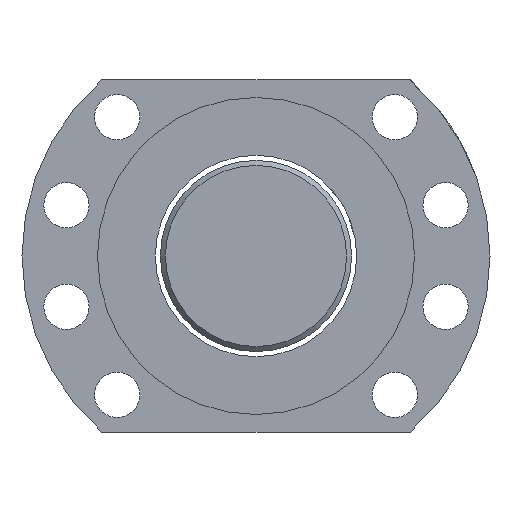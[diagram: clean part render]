
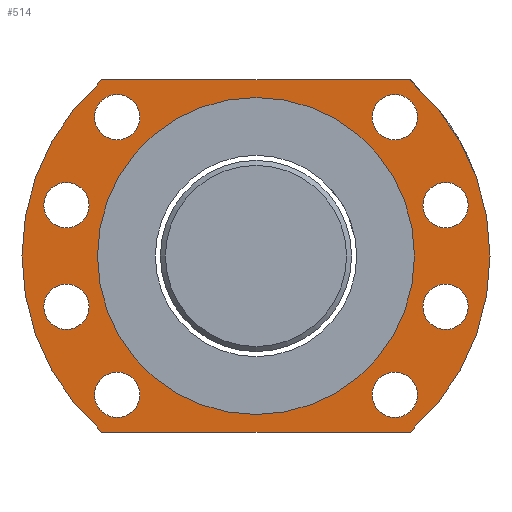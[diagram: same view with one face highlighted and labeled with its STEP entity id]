
A CAD part, left-side view. The second image highlights one B-rep face of the part: STEP entity #514.
In plain terms, the highlighted planar face has unit normal (-1, 0, 0).
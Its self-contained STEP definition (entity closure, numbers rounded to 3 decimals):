
#61=LINE('',#864,#69);
#64=LINE('',#870,#72);
#69=VECTOR('',#706,1000.);
#72=VECTOR('',#711,1000.);
#83=PLANE('',#605);
#161=ORIENTED_EDGE('',*,*,#229,.T.);
#162=ORIENTED_EDGE('',*,*,#231,.F.);
#163=ORIENTED_EDGE('',*,*,#235,.T.);
#164=ORIENTED_EDGE('',*,*,#253,.F.);
#165=ORIENTED_EDGE('',*,*,#250,.T.);
#166=ORIENTED_EDGE('',*,*,#247,.T.);
#167=ORIENTED_EDGE('',*,*,#217,.T.);
#168=ORIENTED_EDGE('',*,*,#244,.T.);
#169=ORIENTED_EDGE('',*,*,#243,.F.);
#170=ORIENTED_EDGE('',*,*,#241,.F.);
#171=ORIENTED_EDGE('',*,*,#239,.F.);
#172=ORIENTED_EDGE('',*,*,#237,.T.);
#173=ORIENTED_EDGE('',*,*,#233,.T.);
#217=EDGE_CURVE('',#271,#272,#316,.T.);
#229=EDGE_CURVE('',#283,#283,#322,.T.);
#231=EDGE_CURVE('',#285,#285,#324,.T.);
#233=EDGE_CURVE('',#287,#287,#326,.T.);
#235=EDGE_CURVE('',#289,#289,#328,.T.);
#237=EDGE_CURVE('',#291,#291,#330,.T.);
#239=EDGE_CURVE('',#293,#293,#332,.T.);
#241=EDGE_CURVE('',#295,#295,#334,.T.);
#243=EDGE_CURVE('',#297,#297,#336,.T.);
#244=EDGE_CURVE('',#272,#298,#61,.T.);
#247=EDGE_CURVE('',#300,#271,#64,.T.);
#250=EDGE_CURVE('',#298,#300,#337,.T.);
#253=EDGE_CURVE('',#303,#303,#340,.T.);
#271=VERTEX_POINT('',#782);
#272=VERTEX_POINT('',#783);
#283=VERTEX_POINT('',#827);
#285=VERTEX_POINT('',#832);
#287=VERTEX_POINT('',#837);
#289=VERTEX_POINT('',#842);
#291=VERTEX_POINT('',#847);
#293=VERTEX_POINT('',#852);
#295=VERTEX_POINT('',#857);
#297=VERTEX_POINT('',#862);
#298=VERTEX_POINT('',#865);
#300=VERTEX_POINT('',#871);
#303=VERTEX_POINT('',#882);
#316=CIRCLE('',#561,46.5);
#322=CIRCLE('',#569,4.5);
#324=CIRCLE('',#572,4.5);
#326=CIRCLE('',#575,4.5);
#328=CIRCLE('',#578,4.5);
#330=CIRCLE('',#581,4.5);
#332=CIRCLE('',#584,4.5);
#334=CIRCLE('',#587,4.5);
#336=CIRCLE('',#590,4.5);
#337=CIRCLE('',#594,46.5);
#340=CIRCLE('',#598,31.5);
#387=EDGE_LOOP('',(#161));
#388=EDGE_LOOP('',(#162));
#389=EDGE_LOOP('',(#163));
#390=EDGE_LOOP('',(#164));
#391=EDGE_LOOP('',(#165,#166,#167,#168));
#392=EDGE_LOOP('',(#169));
#393=EDGE_LOOP('',(#170));
#394=EDGE_LOOP('',(#171));
#395=EDGE_LOOP('',(#172));
#396=EDGE_LOOP('',(#173));
#458=FACE_BOUND('',#387,.T.);
#459=FACE_BOUND('',#388,.T.);
#460=FACE_BOUND('',#389,.T.);
#461=FACE_BOUND('',#390,.T.);
#462=FACE_BOUND('',#391,.T.);
#463=FACE_BOUND('',#392,.T.);
#464=FACE_BOUND('',#393,.T.);
#465=FACE_BOUND('',#394,.T.);
#466=FACE_BOUND('',#395,.T.);
#467=FACE_BOUND('',#396,.T.);
#514=ADVANCED_FACE('',(#458,#459,#460,#461,#462,#463,#464,#465,#466,#467),
#83,.T.);
#561=AXIS2_PLACEMENT_3D('',#781,#642,#643);
#569=AXIS2_PLACEMENT_3D('',#826,#660,#661);
#572=AXIS2_PLACEMENT_3D('',#831,#666,#667);
#575=AXIS2_PLACEMENT_3D('',#836,#672,#673);
#578=AXIS2_PLACEMENT_3D('',#841,#678,#679);
#581=AXIS2_PLACEMENT_3D('',#846,#684,#685);
#584=AXIS2_PLACEMENT_3D('',#851,#690,#691);
#587=AXIS2_PLACEMENT_3D('',#856,#696,#697);
#590=AXIS2_PLACEMENT_3D('',#861,#702,#703);
#594=AXIS2_PLACEMENT_3D('',#876,#716,#717);
#598=AXIS2_PLACEMENT_3D('',#881,#724,#725);
#605=AXIS2_PLACEMENT_3D('',#904,#738,#739);
#642=DIRECTION('',(-1.,0.,0.));
#643=DIRECTION('',(0.,0.,-1.));
#660=DIRECTION('',(1.,0.,0.));
#661=DIRECTION('',(0.,0.,1.));
#666=DIRECTION('',(-1.,0.,0.));
#667=DIRECTION('',(0.,0.,1.));
#672=DIRECTION('',(1.,0.,0.));
#673=DIRECTION('',(0.,0.,1.));
#678=DIRECTION('',(1.,0.,0.));
#679=DIRECTION('',(0.,0.,1.));
#684=DIRECTION('',(1.,0.,0.));
#685=DIRECTION('',(0.,0.,1.));
#690=DIRECTION('',(-1.,0.,0.));
#691=DIRECTION('',(0.,0.,1.));
#696=DIRECTION('',(-1.,0.,0.));
#697=DIRECTION('',(0.,0.,1.));
#702=DIRECTION('',(-1.,0.,0.));
#703=DIRECTION('',(0.,0.,1.));
#706=DIRECTION('',(0.,1.,0.));
#711=DIRECTION('',(0.,-1.,0.));
#716=DIRECTION('',(-1.,0.,0.));
#717=DIRECTION('',(0.,0.,-1.));
#724=DIRECTION('',(-1.,0.,0.));
#725=DIRECTION('',(0.,0.,-1.));
#738=DIRECTION('',(-1.,0.,0.));
#739=DIRECTION('',(0.,0.,1.));
#781=CARTESIAN_POINT('',(124.817,39.99,-6.745));
#782=CARTESIAN_POINT('',(124.817,9.375,-41.745));
#783=CARTESIAN_POINT('',(124.817,9.375,28.255));
#826=CARTESIAN_POINT('',(124.817,12.413,20.832));
#827=CARTESIAN_POINT('',(124.817,12.413,25.332));
#831=CARTESIAN_POINT('',(124.817,67.567,20.832));
#832=CARTESIAN_POINT('',(124.817,67.567,25.332));
#836=CARTESIAN_POINT('',(124.817,2.319,3.349));
#837=CARTESIAN_POINT('',(124.817,2.319,7.849));
#841=CARTESIAN_POINT('',(124.817,2.319,-16.839));
#842=CARTESIAN_POINT('',(124.817,2.319,-12.339));
#846=CARTESIAN_POINT('',(124.817,12.413,-34.322));
#847=CARTESIAN_POINT('',(124.817,12.413,-29.822));
#851=CARTESIAN_POINT('',(124.817,67.567,-34.322));
#852=CARTESIAN_POINT('',(124.817,67.567,-29.822));
#856=CARTESIAN_POINT('',(124.817,77.661,3.349));
#857=CARTESIAN_POINT('',(124.817,77.661,7.849));
#861=CARTESIAN_POINT('',(124.817,77.661,-16.839));
#862=CARTESIAN_POINT('',(124.817,77.661,-12.339));
#864=CARTESIAN_POINT('',(124.817,9.375,28.255));
#865=CARTESIAN_POINT('',(124.817,70.604,28.255));
#870=CARTESIAN_POINT('',(124.817,70.604,-41.745));
#871=CARTESIAN_POINT('',(124.817,70.604,-41.745));
#876=CARTESIAN_POINT('',(124.817,39.99,-6.745));
#881=CARTESIAN_POINT('',(124.817,39.99,-6.745));
#882=CARTESIAN_POINT('',(124.817,39.99,-38.245));
#904=CARTESIAN_POINT('',(124.817,39.99,-6.745));
